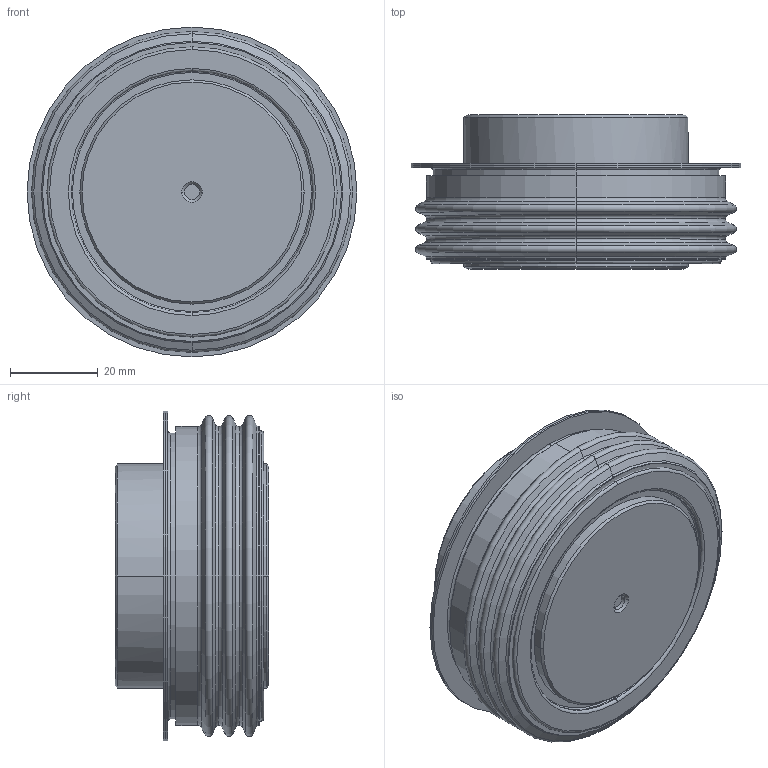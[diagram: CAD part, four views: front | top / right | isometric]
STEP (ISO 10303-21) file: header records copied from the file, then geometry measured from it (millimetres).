
FILE_DESCRIPTION (( 'STEP AP214' ), '1' );
FILE_NAME ('PTO54.STEP', '2021-08-19T06:43:08', ( '' ), ( '' ), 'SwSTEP 2.0', 'SolidWorks 2018', '' );
FILE_SCHEMA (( 'AUTOMOTIVE_DESIGN' ));
Length unit declared in the file: millimetre
Products named in the file (1): PTO54
Bounding box: 75 x 35 x 75 mm (x, y, z)
Volume: 86252.6 mm3; surface area: 34008.4 mm2
Topology: 5 solids, 5 shells, 124 faces, 254 edges, 149 vertices
Faces by surface type: torus 42, cylinder 40, plane 23, cone 19
Entity records: 4749 total; most frequent: DIRECTION 685, CARTESIAN_POINT 540, ORIENTED_EDGE 508, AXIS2_PLACEMENT_3D 310, EDGE_CURVE 254, CIRCLE 185, VERTEX_POINT 149, EDGE_LOOP 141
